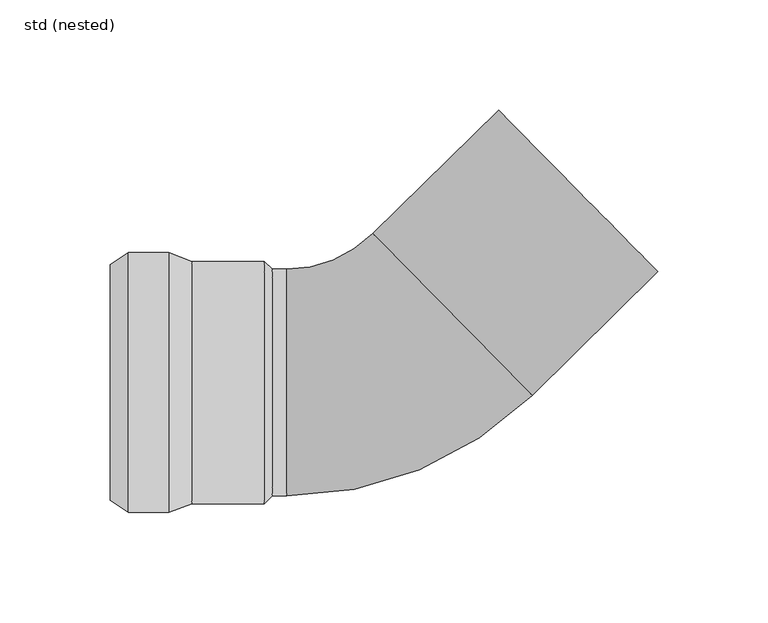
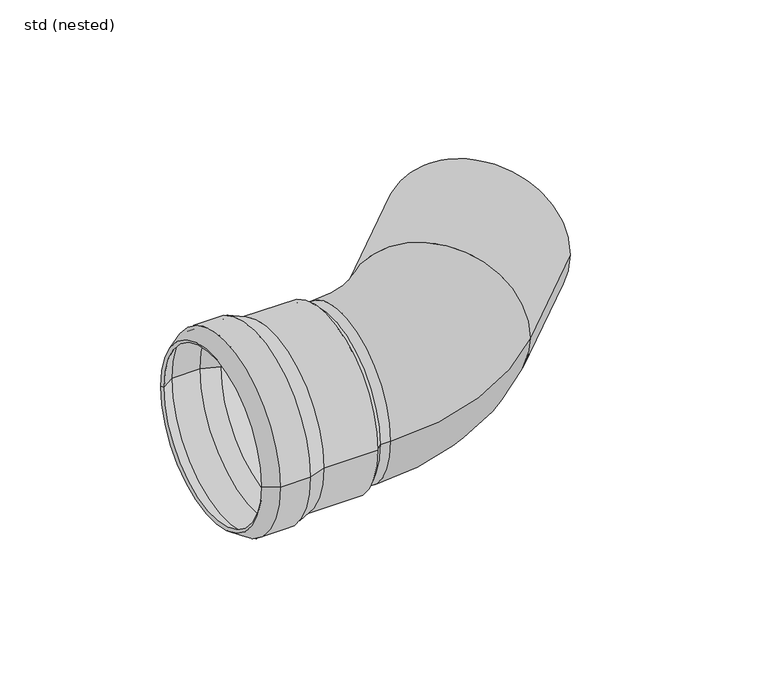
"""IFC4 building model written with IfcOpenShell, lengths in millimetres: pipe fitting geometry, ZZZ_do not use_PIF_ST_UN_GM-X pipe bend_ACO : std (nested)."""

from ifc_helpers import new_model, si_unit, point, frame, origin, place, context, project, spatial, polyline, circle_curve, ellipse_curve, trimmed, source, transform, mapped, element, save
from ifc_brep_helpers import plane_surface, cylinder_surface, revolved_surface, advanced_brep


def std_nested_04e2da1f(model_context):
    return source(origin(), model_context, "Body", "AdvancedBrep", [
        advanced_brep(
        [(-97.5, 59.0, 0.0), (-97.5, -59.0, 0.0), (-115.7, -59.0, 0.0), (-115.7, 59.0, 0.0), (-87.0, 55.0, 0.0), (-87.0, -55.0, 0.0), (-124.0, -53.5, 0.0), (-124.0, 53.5, 0.0), (-54.0, 55.0, 0.0), (-54.0, -55.0, 0.0), (-50.5, 51.5, 0.0), (-50.5, -51.5, 0.0), (-54.0, 51.5, 0.0), (-54.0, -51.5, 0.0), (-87.3680513, 53.0, 0.0), (-87.3680513, -53.0, 0.0), (-54.0, -53.0, 0.0), (-54.0, 53.0, 0.0), (-97.8680513, 57.0, 0.0), (-97.8680513, -57.0, 0.0), (-115.0974883, 57.0, 0.0), (-115.0974883, -57.0, 0.0), (-122.8952393, 51.8328156, 0.0), (-122.8952393, -51.8328156, 0.0)],
        [
            (0, 1, circle_curve(frame((-97.5, 0.0, 0.0), z_axis=(-1.0, 0.0, 0.0), x_axis=(0.0, -1.0, 0.0)), 59.0)),
            (1, 2),
            (2, 3, circle_curve(frame((-115.7, 0.0, 0.0), z_axis=(1.0, 0.0, 0.0), x_axis=(0.0, -1.0, 0.0)), 59.0)),
            (3, 0),
            (1, 0, circle_curve(frame((-97.5, 0.0, 0.0), z_axis=(-1.0, 0.0, 0.0), x_axis=(0.0, -1.0, 0.0)), 59.0)),
            (3, 2, circle_curve(frame((-115.7, 0.0, 0.0), z_axis=(1.0, 0.0, 0.0), x_axis=(0.0, -1.0, 0.0)), 59.0)),
            (4, 5, circle_curve(frame((-87.0, 0.0, 0.0), z_axis=(-1.0, 0.0, 0.0), x_axis=(0.0, -1.0, 0.0)), 55.0)),
            (5, 1),
            (0, 4),
            (5, 4, circle_curve(frame((-87.0, 0.0, 0.0), z_axis=(-1.0, 0.0, 0.0), x_axis=(0.0, -1.0, 0.0)), 55.0)),
            (2, 6),
            (6, 7, circle_curve(frame((-124.0, 0.0, 0.0), z_axis=(1.0, 0.0, 0.0), x_axis=(0.0, -1.0, 0.0)), 53.5)),
            (7, 3),
            (7, 6, circle_curve(frame((-124.0, 0.0, 0.0), z_axis=(1.0, 0.0, 0.0), x_axis=(0.0, -1.0, 0.0)), 53.5)),
            (8, 9, circle_curve(frame((-54.0, 0.0, 0.0), z_axis=(-1.0, 0.0, 0.0), x_axis=(0.0, -1.0, 0.0)), 55.0)),
            (9, 5),
            (4, 8),
            (9, 8, circle_curve(frame((-54.0, 0.0, 0.0), z_axis=(-1.0, 0.0, 0.0), x_axis=(0.0, -1.0, 0.0)), 55.0)),
            (10, 11, circle_curve(frame((-50.5, 0.0, 0.0), z_axis=(-1.0, 0.0, 0.0), x_axis=(0.0, -1.0, 0.0)), 51.5)),
            (11, 9),
            (8, 10),
            (11, 10, circle_curve(frame((-50.5, 0.0, 0.0), z_axis=(-1.0, 0.0, 0.0), x_axis=(0.0, -1.0, 0.0)), 51.5)),
            (12, 13, circle_curve(frame((-54.0, 0.0, 0.0), z_axis=(-1.0, 0.0, 0.0), x_axis=(0.0, -1.0, 0.0)), 51.5)),
            (13, 11),
            (10, 12),
            (13, 12, circle_curve(frame((-54.0, 0.0, 0.0), z_axis=(-1.0, 0.0, 0.0), x_axis=(0.0, -1.0, 0.0)), 51.5)),
            (14, 15, circle_curve(frame((-87.3680513, 0.0, 0.0), z_axis=(-1.0, 0.0, 0.0), x_axis=(0.0, -1.0, 0.0)), 53.0)),
            (15, 16),
            (16, 17, circle_curve(frame((-54.0, 0.0, 0.0), z_axis=(1.0, 0.0, 0.0), x_axis=(0.0, -1.0, 0.0)), 53.0)),
            (17, 14),
            (15, 14, circle_curve(frame((-87.3680513, 0.0, 0.0), z_axis=(-1.0, 0.0, 0.0), x_axis=(0.0, -1.0, 0.0)), 53.0)),
            (17, 16, circle_curve(frame((-54.0, 0.0, 0.0), z_axis=(1.0, 0.0, 0.0), x_axis=(0.0, -1.0, 0.0)), 53.0)),
            (18, 19, circle_curve(frame((-97.8680513, 0.0, 0.0), z_axis=(-1.0, 0.0, 0.0), x_axis=(0.0, -1.0, 0.0)), 57.0)),
            (19, 15),
            (14, 18),
            (19, 18, circle_curve(frame((-97.8680513, 0.0, 0.0), z_axis=(-1.0, 0.0, 0.0), x_axis=(0.0, -1.0, 0.0)), 57.0)),
            (20, 21, circle_curve(frame((-115.0974883, 0.0, 0.0), z_axis=(-1.0, 0.0, 0.0), x_axis=(0.0, -1.0, 0.0)), 57.0)),
            (21, 19),
            (18, 20),
            (21, 20, circle_curve(frame((-115.0974883, 0.0, 0.0), z_axis=(-1.0, 0.0, 0.0), x_axis=(0.0, -1.0, 0.0)), 57.0)),
            (22, 23, circle_curve(frame((-122.8952393, 0.0, 0.0), z_axis=(-1.0, 0.0, 0.0), x_axis=(0.0, -1.0, 0.0)), 51.8328156)),
            (23, 21),
            (20, 22),
            (23, 22, circle_curve(frame((-122.8952393, 0.0, 0.0), z_axis=(-1.0, 0.0, 0.0), x_axis=(0.0, -1.0, 0.0)), 51.8328156)),
            (6, 23),
            (22, 7),
            (16, 13),
            (12, 17),
        ],
        [
            cylinder_surface(frame((-120.6444117, 0.0, 0.0), z_axis=(1.0, 0.0, 0.0), x_axis=(0.0, -1.0, 0.0)), 59.0),
            revolved_surface(polyline([(-97.5, -59.0, 0.0), (-87.0, -55.0, 0.0)]), (-120.6444117, 0.0, 0.0), (1.0, 0.0, 0.0)),
            revolved_surface(polyline([(-124.0, -53.5, 0.0), (-115.7, -59.0, 0.0)]), (-120.6444117, 0.0, 0.0), (1.0, 0.0, 0.0)),
            cylinder_surface(frame((-120.6444117, 0.0, 0.0), z_axis=(1.0, 0.0, 0.0), x_axis=(0.0, -1.0, 0.0)), 55.0),
            revolved_surface(polyline([(-54.0, -55.0, 0.0), (-50.5, -51.5, 0.0)]), (-120.6444117, 0.0, 0.0), (1.0, 0.0, 0.0)),
            revolved_surface(polyline([(-50.5, -51.5, 0.0), (-54.0, -51.5, 0.0)]), (-120.6444117, 0.0, 0.0), (1.0, 0.0, 0.0)),
            revolved_surface(polyline([(-54.0, -53.0, 0.0), (-87.3680513, -53.0, 0.0)]), (-120.6444117, 0.0, 0.0), (1.0, 0.0, 0.0)),
            revolved_surface(polyline([(-87.3680513, -53.0, 0.0), (-97.8680513, -57.0, 0.0)]), (-120.6444117, 0.0, 0.0), (1.0, 0.0, 0.0)),
            revolved_surface(polyline([(-97.8680513, -57.0, 0.0), (-115.0974883, -57.0, 0.0)]), (-120.6444117, 0.0, 0.0), (1.0, 0.0, 0.0)),
            revolved_surface(polyline([(-115.0974883, -57.0, 0.0), (-122.8952393, -51.8328156, 0.0)]), (-120.6444117, 0.0, 0.0), (1.0, 0.0, 0.0)),
            revolved_surface(polyline([(-122.8952393, -51.8328156, 0.0), (-124.0, -53.5, 0.0)]), (-120.6444117, 0.0, 0.0), (1.0, 0.0, 0.0)),
            plane_surface(frame((-54.0, 0.0, 0.0), z_axis=(-1.0, 0.0, 0.0), x_axis=(0.0, -1.0, 0.0))),
        ],
        [
            (0, [[1, 2, 3, 4]]),
            (0, [[5, -4, 6, -2]]),
            (1, [[7, 8, -1, 9]]),
            (1, [[10, -9, -5, -8]]),
            (2, [[-3, 11, 12, 13]]),
            (2, [[-6, -13, 14, -11]]),
            (3, [[15, 16, -7, 17]]),
            (3, [[18, -17, -10, -16]]),
            (4, [[19, 20, -15, 21]]),
            (4, [[22, -21, -18, -20]]),
            (5, [[23, 24, -19, 25]]),
            (5, [[26, -25, -22, -24]]),
            (6, [[27, 28, 29, 30]]),
            (6, [[31, -30, 32, -28]]),
            (7, [[33, 34, -27, 35]]),
            (7, [[36, -35, -31, -34]]),
            (8, [[37, 38, -33, 39]]),
            (8, [[40, -39, -36, -38]]),
            (9, [[41, 42, -37, 43]]),
            (9, [[44, -43, -40, -42]]),
            (10, [[-12, 45, -41, 46]]),
            (10, [[-14, -46, -44, -45]]),
            (11, [[-29, 47, -23, 48]]),
            (11, [[-32, -48, -26, -47]]),
        ],
    ),
        advanced_brep(
        [(-4.7967244, 67.5665704, 0.0), (-44.0, 51.5, 0.0), (-44.0, -51.5, 0.0), (67.4870268, -5.8095791, 0.0), (31.3451512, 30.8784957, 51.5), (31.3451512, 30.8784957, -51.5), (-54.0, -51.5, 0.0), (-54.0, 51.5, 0.0), (124.4782109, 50.3331403, 0.0), (52.1944597, 123.7092898, 0.0)],
        [
            (0, 1, circle_curve(frame((-44.0, 107.362311, 0.0), z_axis=(0.0, 0.0, -1.0), x_axis=(0.0, -1.0, 0.0)), 55.862311)),
            (1, 2, circle_curve(frame((-44.0, 0.0, 0.0), z_axis=(1.0, 0.0, 0.0), x_axis=(0.0, 1.0, 0.0)), 51.5)),
            (2, 3, circle_curve(frame((-44.0, 107.362311, 0.0), z_axis=(0.0, 0.0, 1.0), x_axis=(0.0, -1.0, 0.0)), 158.862311)),
            (3, 4, circle_curve(frame((31.3451512, 30.8784957, 0.0), z_axis=(-0.7123898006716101, -0.7017839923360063, 0.0), x_axis=(-0.7017839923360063, 0.7123898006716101, 0.0)), 51.5)),
            (4, 0, circle_curve(frame((31.3451512, 30.8784957, 0.0), z_axis=(-0.7123898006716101, -0.7017839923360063, 0.0), x_axis=(-0.7017839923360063, 0.7123898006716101, 0.0)), 51.5)),
            (0, 5, circle_curve(frame((31.3451512, 30.8784957, 0.0), z_axis=(-0.7123898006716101, -0.7017839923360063, 0.0), x_axis=(-0.7017839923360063, 0.7123898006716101, 0.0)), 51.5)),
            (5, 3, circle_curve(frame((31.3451512, 30.8784957, 0.0), z_axis=(-0.7123898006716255, -0.7017839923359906, 0.0), x_axis=(-0.7017839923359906, 0.7123898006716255, 0.0)), 51.5)),
            (2, 1, circle_curve(frame((-44.0, 0.0, 0.0), z_axis=(1.0, 0.0, 0.0), x_axis=(0.0, 1.0, 0.0)), 51.5)),
            (6, 7, circle_curve(frame((-54.0, 0.0, 0.0), z_axis=(-1.0, 0.0, 0.0), x_axis=(0.0, 1.0, 0.0)), 51.5)),
            (7, 6, circle_curve(frame((-54.0, 0.0, 0.0), z_axis=(-1.0, 0.0, 0.0), x_axis=(0.0, 1.0, 0.0)), 51.5)),
            (7, 1),
            (2, 6),
            (8, 9, circle_curve(frame((88.3363353, 87.021215, 0.0), z_axis=(0.7123898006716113, 0.701783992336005, 0.0), x_axis=(-0.701783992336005, 0.7123898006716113, 0.0)), 51.5)),
            (9, 8, circle_curve(frame((88.3363353, 87.021215, 0.0), z_axis=(0.7123898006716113, 0.701783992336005, 0.0), x_axis=(-0.701783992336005, 0.7123898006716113, 0.0)), 51.5)),
            (9, 0),
            (3, 8),
        ],
        [
            revolved_surface(trimmed(ellipse_curve(frame((-44.0, 0.0, 0.0), z_axis=(-1.0, 0.0, 0.0), x_axis=(0.0, 1.0, 0.0)), 51.5, 51.5), [point((-44.0, -51.5, 0.0))], [point((-44.0, 51.5, 0.0))], True, "CARTESIAN"), (-44.0, 107.362311, 0.0), (0.0, 0.0, 1.0)),
            revolved_surface(trimmed(ellipse_curve(frame((-44.0, 0.0, 0.0), z_axis=(-1.0, 0.0, 0.0), x_axis=(0.0, 1.0, 0.0)), 51.5, 51.5), [point((-44.0, 51.5, 0.0))], [point((-44.0, -51.5, 0.0))], True, "CARTESIAN"), (-44.0, 107.362311, 0.0), (0.0, 0.0, 1.0)),
            plane_surface(frame((-54.0, 51.5, 0.0), z_axis=(-1.0, 0.0, 0.0), x_axis=(0.0, 0.0, -1.0))),
            cylinder_surface(frame((-54.0, 0.0, 0.0), z_axis=(1.0, 0.0, 0.0), x_axis=(0.0, 1.0, 0.0)), 51.5),
            plane_surface(frame((88.3363353, 87.021215, 0.0), z_axis=(0.7123898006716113, 0.701783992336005, 0.0), x_axis=(0.0, 0.0, 1.0))),
            cylinder_surface(frame((31.3451512, 30.8784957, 0.0), z_axis=(-0.7123898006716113, -0.701783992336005, 0.0), x_axis=(-0.701783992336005, 0.7123898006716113, 0.0)), 51.5),
        ],
        [
            (0, [[1, 2, 3, 4, 5]]),
            (1, [[-1, 6, 7, -3, 8]]),
            (2, [[9, 10]]),
            (3, [[-10, 11, -8, 12]]),
            (3, [[-9, -12, -2, -11]]),
            (4, [[13, 14]]),
            (5, [[-14, 15, -5, -4, 16]]),
            (5, [[-13, -16, -7, -6, -15]]),
        ],
    ),
    ])


if __name__ == "__main__":
    model = new_model("IFC4")
    model_context = context("Model", 3, world=origin())
    ifc_project = project(units=[si_unit("LENGTHUNIT", "METRE", prefix="MILLI")], contexts=[model_context])
    site = spatial("IfcSite", under=ifc_project)
    building = spatial("IfcBuilding", under=site)
    placement = place(None, origin())
    std_nested_shape = std_nested_04e2da1f(model_context)
    element("IfcPipeFitting", 1, ObjectType="ZZZ_do not use_PIF_ST_UN_GM-X pipe bend_ACO : std (nested)", at=placement, inside=building, context=model_context, shape_type="MappedRepresentation", body=[
        mapped(std_nested_shape, transform((0.0, 0.0, 0.0), x_axis=(1.0, 0.0, 0.0), y_axis=(0.0, 1.0, 0.0), z_axis=(0.0, 0.0, 1.0))),
    ])
    save(model, "model.ifc")
